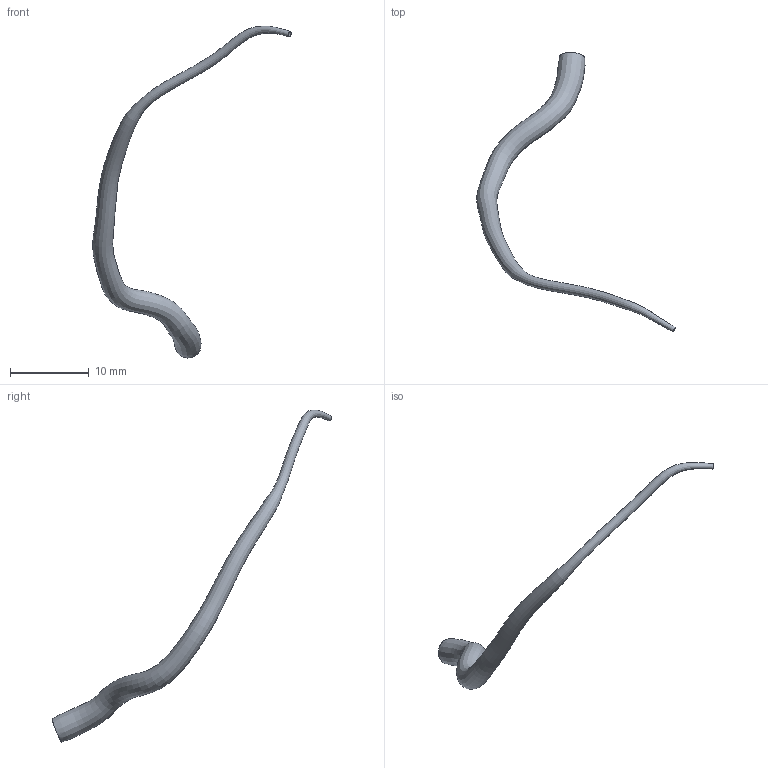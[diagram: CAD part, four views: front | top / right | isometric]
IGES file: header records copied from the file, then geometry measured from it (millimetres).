
Global section: file name: C:\Documents and Settings\Administrator\Desktop\FDA-Pig\Domestic LCA\Pig_000005\lcx.seg.ed.igs; native system: Rhinoceros ( May 19 2006 ); preprocessor: Trout Lake IGES 012 May 19 2006; date: 111205.183410; units: centimetre
Bounding box: 25.14 x 35.46 x 42.07 mm (x, y, z)
Surface area: 894.6 mm2 (no closed solid volume)
Topology: 0 solids, 0 shells, 4 faces, 13 edges, 10 vertices
Faces by surface type: bspline 4
